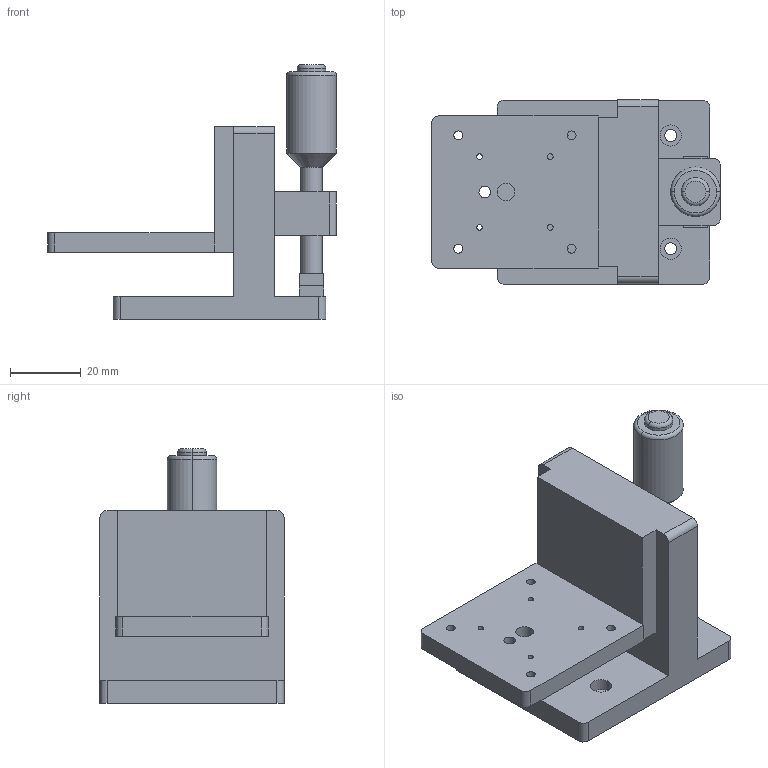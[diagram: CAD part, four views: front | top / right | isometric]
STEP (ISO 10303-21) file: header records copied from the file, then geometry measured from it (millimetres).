
FILE_DESCRIPTION (( 'STEP AP203' ), '1' );
FILE_NAME ('PT-SD13M.STEP', '2022-09-04T08:16:39', ( '' ), ( '' ), 'SwSTEP 2.0', 'SolidWorks 2020', '' );
FILE_SCHEMA (( 'CONFIG_CONTROL_DESIGN' ));
Length unit declared in the file: millimetre
Products named in the file (1): PT-SD13M
Bounding box: 81.5 x 52 x 72 mm (x, y, z)
Volume: 76561 mm3; surface area: 22743.3 mm2
Topology: 1 solids, 1 shells, 283 faces, 761 edges, 504 vertices
Faces by surface type: plane 147, bspline 76, cylinder 54, torus 4, cone 2
Entity records: 12068 total; most frequent: CARTESIAN_POINT 5241, ORIENTED_EDGE 1522, DIRECTION 1141, EDGE_CURVE 761, VERTEX_POINT 504, VECTOR 493, LINE 493, EDGE_LOOP 337
